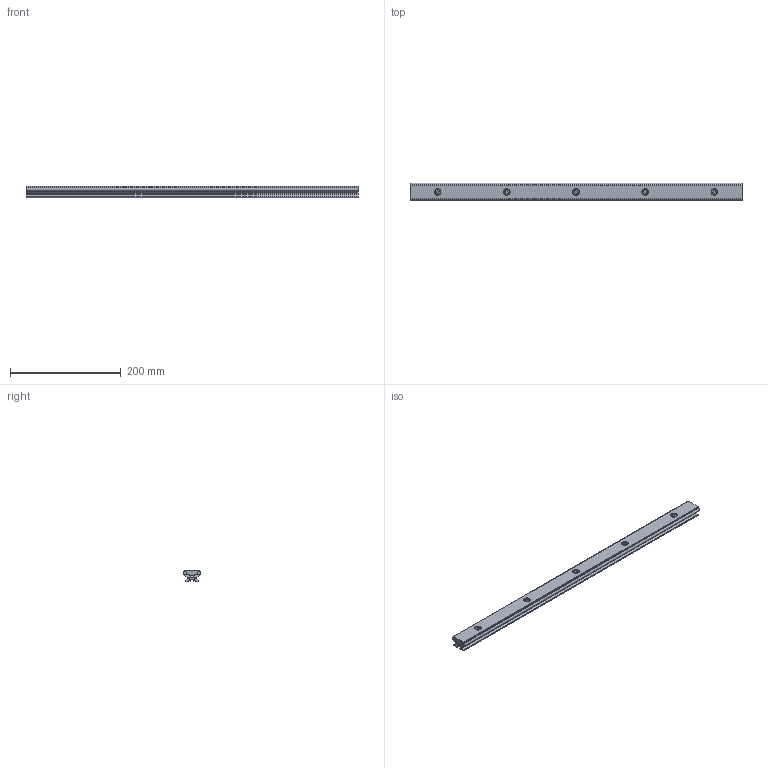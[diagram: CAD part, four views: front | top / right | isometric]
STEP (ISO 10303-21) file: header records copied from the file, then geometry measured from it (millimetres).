
FILE_DESCRIPTION(/* description */ ('Unknown'),/* implementation_level */ '2;1');
FILE_NAME(/* name */ 'Schiene_HLF32_600',/* time_stamp */ '2022-01-23T17:54:08+01:00',/* author */ ('Unknown'),/* organization */ ('Unknown'),/* preprocessor_version */ 'ST-DEVELOPER v16.7',/* originating_system */ 'Solid Edge',/* authorisation */ 'Unknown');
FILE_SCHEMA (('AUTOMOTIVE_DESIGN {1 0 10303 214 3 1 1}'));
Length unit declared in the file: millimetre
Products named in the file (6): Schiene_HLF32_600; HLF32_Profil_oben_600_gebohrt; Welle_Dm_6-600_lang; din_7984_10_9_m_6x12; HLF32_Profil_unten-600; mutter_din_557-m6_m_5
Assembly tree (14 placements, depth 2):
  Schiene_HLF32_600
    HLF32_Profil_oben_600_gebohrt
    Welle_Dm_6-600_lang  x2
    din_7984_10_9_m_6x12  x5
    HLF32_Profil_unten-600
    mutter_din_557-m6_m_5  x5
Bounding box: 600 x 32.02 x 20.02 mm (x, y, z)
Volume: 246153.6 mm3; surface area: 135535.2 mm2
Topology: 14 solids, 14 shells, 256 faces, 609 edges, 401 vertices
Faces by surface type: plane 157, cylinder 74, cone 20, torus 5
Full cylindrical faces by diameter (mm): 4.918 x5, 6 x12, 7 x5, 10 x5, 12 x5
Entity records: 4202 total; most frequent: DIRECTION 735, CARTESIAN_POINT 693, ORIENTED_EDGE 640, EDGE_CURVE 320, AXIS2_PLACEMENT_3D 267, VERTEX_POINT 225, LINE 201, VECTOR 201
